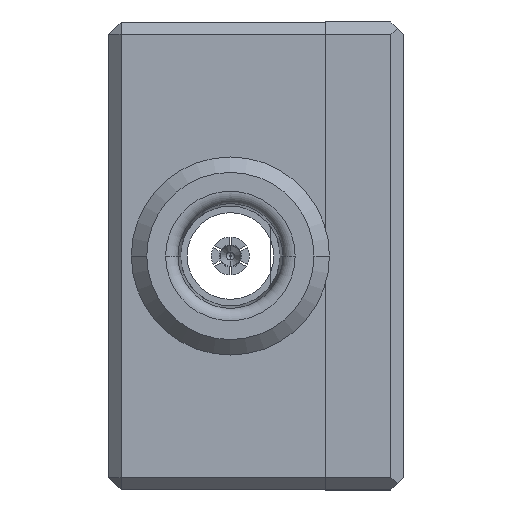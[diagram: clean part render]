
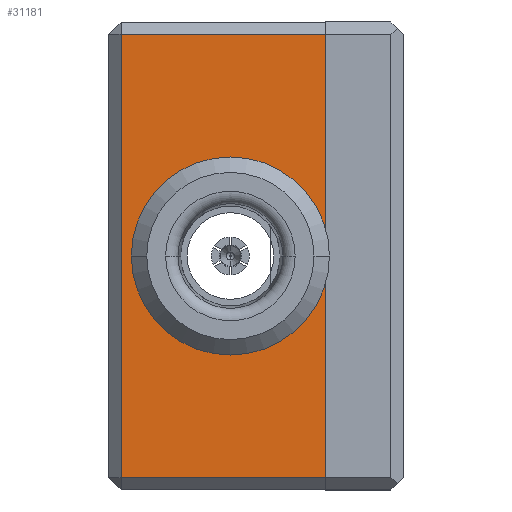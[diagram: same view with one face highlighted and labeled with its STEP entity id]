
A CAD part, left-side view. The second image highlights one B-rep face of the part: STEP entity #31181.
In plain terms, the highlighted planar face has unit normal (-1, 0, 0).
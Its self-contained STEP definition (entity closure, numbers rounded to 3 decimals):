
#260 = VECTOR ( 'NONE', #19474, 1000. ) ;
#1090 = EDGE_LOOP ( 'NONE', ( #7962, #8911 ) ) ;
#2230 = PLANE ( 'NONE',  #5604 ) ;
#2666 = DIRECTION ( 'NONE',  ( 0., 1., 0. ) ) ;
#3972 = EDGE_CURVE ( 'NONE', #17010, #17387, #14386, .T. ) ;
#4035 = EDGE_CURVE ( 'NONE', #32073, #12549, #28853, .T. ) ;
#4851 = CARTESIAN_POINT ( 'NONE',  ( -24.5, 1.295, 0. ) ) ;
#5277 = DIRECTION ( 'NONE',  ( 0., 0., -1. ) ) ;
#5604 = AXIS2_PLACEMENT_3D ( 'NONE', #11224, #22987, #5277 ) ;
#5804 = CARTESIAN_POINT ( 'NONE',  ( -24.5, 14.045, 0. ) ) ;
#6015 = AXIS2_PLACEMENT_3D ( 'NONE', #37618, #20549, #2666 ) ;
#7168 = EDGE_CURVE ( 'NONE', #19166, #32073, #21112, .T. ) ;
#7323 = EDGE_CURVE ( 'NONE', #17387, #17010, #32750, .T. ) ;
#7651 = EDGE_CURVE ( 'NONE', #28573, #19166, #9945, .T. ) ;
#7962 = ORIENTED_EDGE ( 'NONE', *, *, #3972, .F. ) ;
#8911 = ORIENTED_EDGE ( 'NONE', *, *, #7323, .F. ) ;
#9387 = ORIENTED_EDGE ( 'NONE', *, *, #4035, .T. ) ;
#9640 = CARTESIAN_POINT ( 'NONE',  ( -24.5, 0., -17.9 ) ) ;
#9945 = LINE ( 'NONE', #13600, #18874 ) ;
#10719 = DIRECTION ( 'NONE',  ( 0., 1., 0. ) ) ;
#11208 = ORIENTED_EDGE ( 'NONE', *, *, #28209, .T. ) ;
#11224 = CARTESIAN_POINT ( 'NONE',  ( -24.5, 17.5, 18.9 ) ) ;
#12182 = ORIENTED_EDGE ( 'NONE', *, *, #7651, .T. ) ;
#12549 = VERTEX_POINT ( 'NONE', #23244 ) ;
#13127 = DIRECTION ( 'NONE',  ( 0., 1., 0. ) ) ;
#13203 = DIRECTION ( 'NONE',  ( -1., 0., 0. ) ) ;
#13248 = CARTESIAN_POINT ( 'NONE',  ( -24.5, 7.67, 0. ) ) ;
#13561 = ORIENTED_EDGE ( 'NONE', *, *, #7168, .T. ) ;
#13600 = CARTESIAN_POINT ( 'NONE',  ( -24.5, 0., 18.9 ) ) ;
#14386 = CIRCLE ( 'NONE', #26772, 6.375 ) ;
#16383 = LINE ( 'NONE', #31340, #260 ) ;
#17010 = VERTEX_POINT ( 'NONE', #5804 ) ;
#17177 = FACE_OUTER_BOUND ( 'NONE', #21455, .T. ) ;
#17387 = VERTEX_POINT ( 'NONE', #4851 ) ;
#18874 = VECTOR ( 'NONE', #19644, 1000. ) ;
#19166 = VERTEX_POINT ( 'NONE', #37821 ) ;
#19443 = VECTOR ( 'NONE', #23905, 1000. ) ;
#19474 = DIRECTION ( 'NONE',  ( 0., -1., 0. ) ) ;
#19644 = DIRECTION ( 'NONE',  ( 0., 0., 1. ) ) ;
#20549 = DIRECTION ( 'NONE',  ( -1., 0., 0. ) ) ;
#21112 = LINE ( 'NONE', #22396, #35406 ) ;
#21455 = EDGE_LOOP ( 'NONE', ( #9387, #11208, #12182, #13561 ) ) ;
#22396 = CARTESIAN_POINT ( 'NONE',  ( -24.5, 17.5, 17.9 ) ) ;
#22987 = DIRECTION ( 'NONE',  ( 1., 0., 0. ) ) ;
#23244 = CARTESIAN_POINT ( 'NONE',  ( -24.5, 16.5, -17.9 ) ) ;
#23837 = FACE_BOUND ( 'NONE', #1090, .T. ) ;
#23905 = DIRECTION ( 'NONE',  ( 0., 0., -1. ) ) ;
#26772 = AXIS2_PLACEMENT_3D ( 'NONE', #13248, #13203, #13127 ) ;
#28209 = EDGE_CURVE ( 'NONE', #12549, #28573, #16383, .T. ) ;
#28573 = VERTEX_POINT ( 'NONE', #9640 ) ;
#28853 = LINE ( 'NONE', #33972, #19443 ) ;
#29896 = CARTESIAN_POINT ( 'NONE',  ( -24.5, 16.5, 17.9 ) ) ;
#31181 = ADVANCED_FACE ( 'NONE', ( #23837, #17177 ), #2230, .F. ) ;
#31340 = CARTESIAN_POINT ( 'NONE',  ( -24.5, 17.5, -17.9 ) ) ;
#32073 = VERTEX_POINT ( 'NONE', #29896 ) ;
#32750 = CIRCLE ( 'NONE', #6015, 6.375 ) ;
#33972 = CARTESIAN_POINT ( 'NONE',  ( -24.5, 16.5, -18.9 ) ) ;
#35406 = VECTOR ( 'NONE', #10719, 1000. ) ;
#37618 = CARTESIAN_POINT ( 'NONE',  ( -24.5, 7.67, 0. ) ) ;
#37821 = CARTESIAN_POINT ( 'NONE',  ( -24.5, 0., 17.9 ) ) ;
